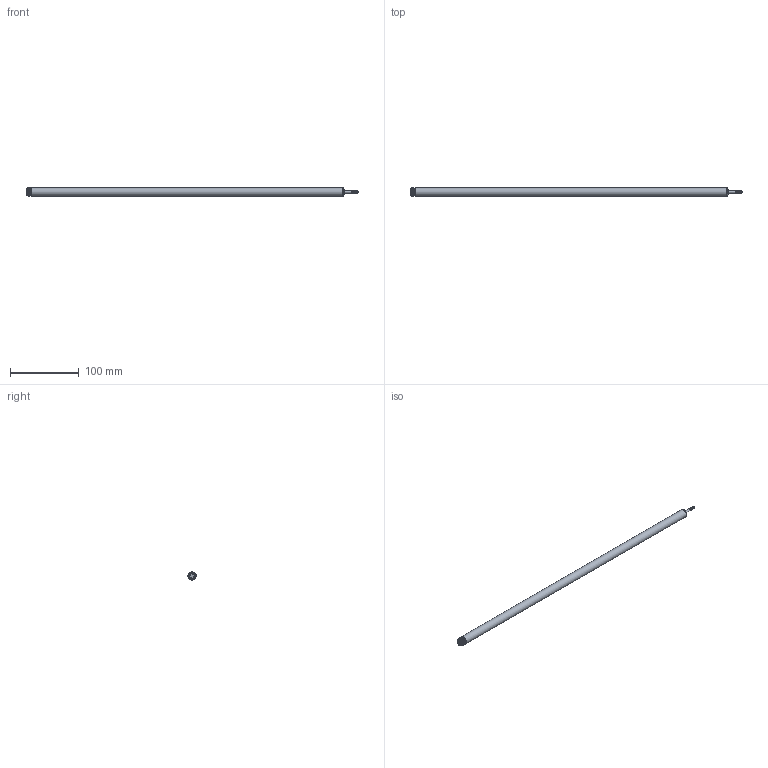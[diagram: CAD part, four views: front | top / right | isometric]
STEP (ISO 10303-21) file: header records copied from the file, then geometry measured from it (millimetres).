
FILE_DESCRIPTION( ( 'STEP AP214' ), '1' );
FILE_NAME( 'N:/Engineering/CAD_Solid/LVDT/SM/Kunden-3D-Modell/SM200-SG-SA.stp', '2011-12-12T13:26:15', ( ' ' ), ( ' ' ), 'XStep 1.0', ' ', ' ' );
FILE_SCHEMA( ( 'CONFIG_CONTROL_DESIGN) ( )' ) );
Length unit declared in the file: metre
Products named in the file (3): 1; 2; 3
Bounding box: 483.1 x 12 x 12 mm (x, y, z)
Surface area: 20320.2 mm2 (no closed solid volume)
Topology: 0 solids, 56 shells, 57 faces, 213 edges, 188 vertices
Faces by surface type: cylinder 18, plane 16, bspline 11, cone 9, sphere 2, torus 1
Full cylindrical faces by diameter (mm): 1 x4, 2.4 x1, 3 x1, 8.5 x1, 10 x1, 10.6 x2, 12 x2
Entity records: 6860 total; most frequent: CARTESIAN_POINT 4876, DIRECTION 330, ORIENTED_EDGE 177, EDGE_CURVE 177, VERTEX_POINT 177, AXIS2_PLACEMENT_3D 153, CIRCLE 105, FACE_BOUND 92
